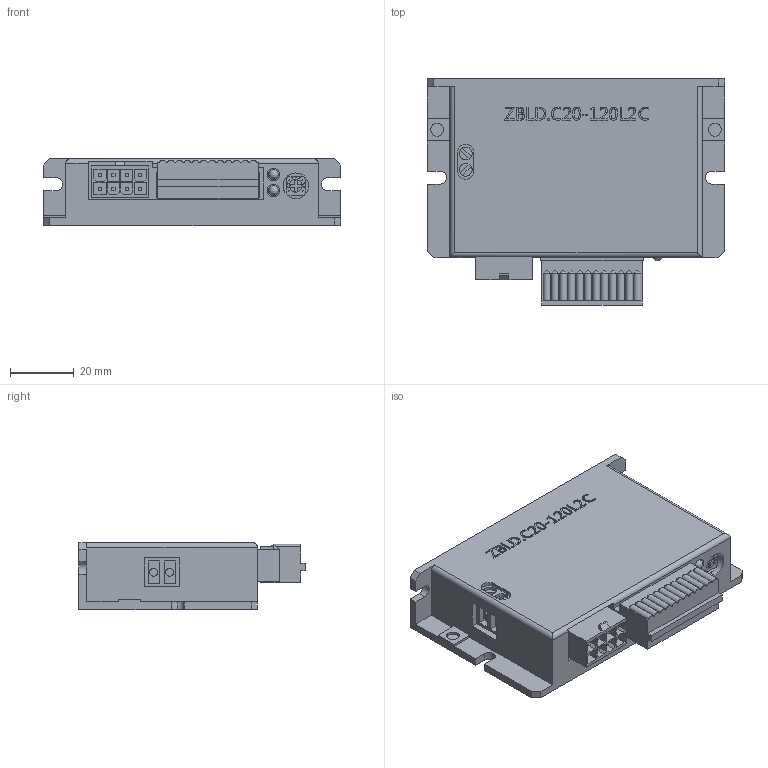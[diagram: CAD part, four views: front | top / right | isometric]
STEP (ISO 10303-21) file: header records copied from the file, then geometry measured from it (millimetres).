
FILE_DESCRIPTION (( 'STEP AP203' ), '1' );
FILE_NAME ('ZBLD.C20-120L2C.STEP', '2020-08-28T06:37:37', ( '' ), ( '' ), 'SwSTEP 2.0', 'SolidWorks 2019', '' );
FILE_SCHEMA (( 'CONFIG_CONTROL_DESIGN' ));
Length unit declared in the file: millimetre
Products named in the file (2): ZBLD.C20-120L2C
Bounding box: 93 x 71 x 21.1 mm (x, y, z)
Volume: 96001.8 mm3; surface area: 26030.1 mm2
Topology: 1 solids, 1 shells, 660 faces, 1703 edges, 1126 vertices
Faces by surface type: plane 532, bspline 68, cylinder 48, cone 12
Entity records: 23772 total; most frequent: CARTESIAN_POINT 7891, ORIENTED_EDGE 3398, DIRECTION 2851, EDGE_CURVE 1699, LINE 1443, VECTOR 1443, VERTEX_POINT 1126, EDGE_LOOP 745
